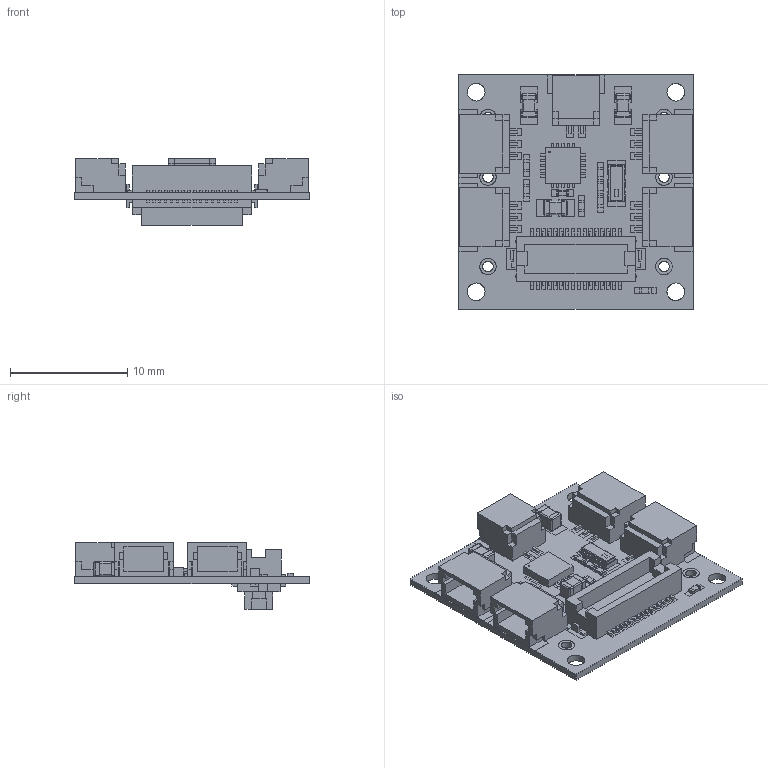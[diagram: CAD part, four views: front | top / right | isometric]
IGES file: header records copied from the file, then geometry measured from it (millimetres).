
Global section: file name: Filename.iges; native system: Open CASCADE 7.4; preprocessor: Open CASCADE IGES processor 7.4; date: 20200707.015358; units: millimetre
Bounding box: 20 x 20 x 5.71 mm (x, y, z)
Surface area: 2210.3 mm2 (no closed solid volume)
Topology: 0 solids, 0 shells, 2284 faces, 10466 edges, 10715 vertices
Faces by surface type: plane 2085, revolution 199
